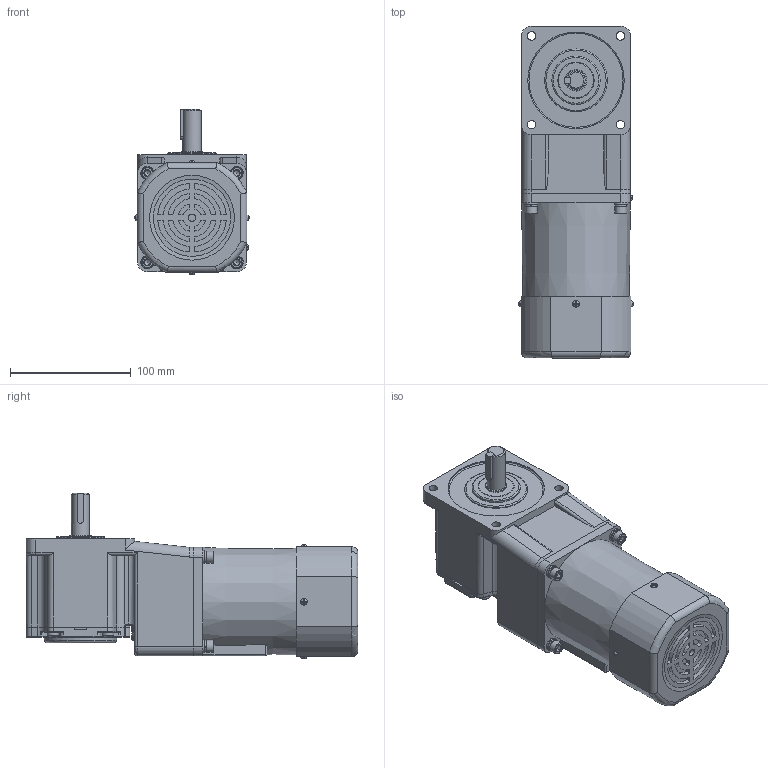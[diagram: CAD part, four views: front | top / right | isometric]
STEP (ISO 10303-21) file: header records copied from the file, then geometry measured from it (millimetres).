
FILE_DESCRIPTION(/* description */ (''),/* implementation_level */ '2;1');
FILE_NAME(/* name */ '90+中实直角-调速风叶-60W.stp',/* time_stamp */ '2022-11-01T13:29:26+08:00',/* author */ (''),/* organization */ (''),/* preprocessor_version */ 'ST-DEVELOPER v16.7',/* originating_system */ 'SIEMENS PLM Software NX 1899',/* authorisation */ '');
FILE_SCHEMA (('AP203_CONFIGURATION_CONTROLLED_3D_DESIGN_OF_MECHANICAL_PARTS_AND_ASSEMBLIES_MIM_LF { 1 0 10303 403 2 1 2}'));
Length unit declared in the file: millimetre
Products named in the file (1): yf1854BC0762njyk
Bounding box: 94.8 x 275 x 137.4 mm (x, y, z)
Volume: 1910749.8 mm3; surface area: 155246.6 mm2
Topology: 15 solids, 16 shells, 711 faces, 1663 edges, 1020 vertices
Faces by surface type: plane 372, cylinder 219, torus 59, cone 45, bspline 8, sphere 8
Full cylindrical faces by diameter (mm): 5 x4, 5.5 x4, 5.795 x4, 6 x1, 6.4 x4, 7 x9, 9.5 x4, 10 x4, 11 x4, 15 x1, 18 x1, 30 x1, 40 x1, 52 x1, 60 x1, 67 x1, 76 x1, 80 x1, 86 x2
Entity records: 22009 total; most frequent: CARTESIAN_POINT 5105, DIRECTION 3283, ORIENTED_EDGE 3038, EDGE_CURVE 1519, AXIS2_PLACEMENT_3D 1253, VERTEX_POINT 982, EDGE_LOOP 869, LINE 777
